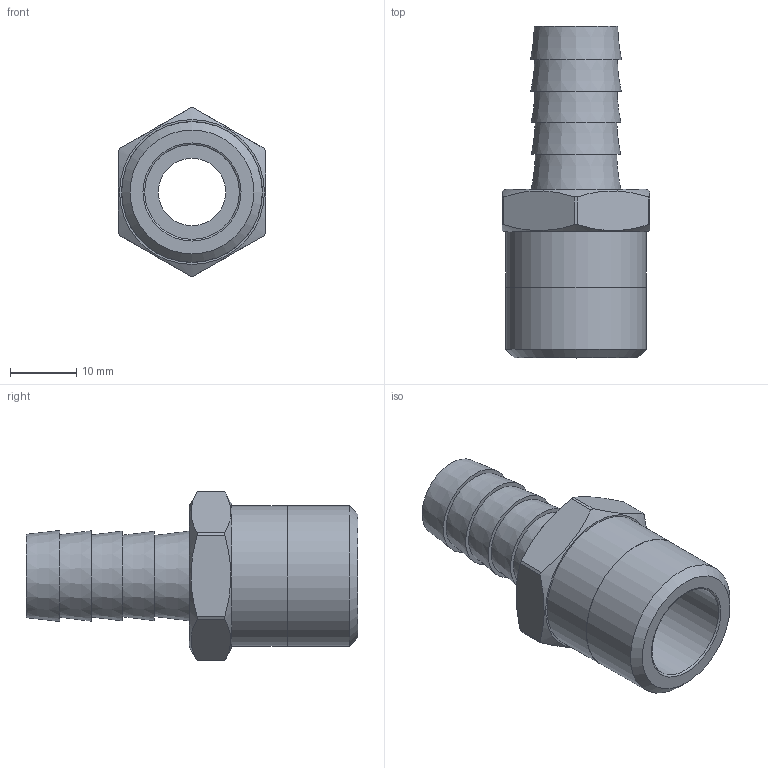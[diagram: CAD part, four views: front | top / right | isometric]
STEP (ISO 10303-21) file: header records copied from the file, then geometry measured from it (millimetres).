
FILE_DESCRIPTION(/* description */ (''),/* implementation_level */ '2;1');
FILE_NAME(/* name */ 'C:/Users/drich/Desktop/MB50-8 v1.step',/* time_stamp */ '2020-02-02T14:55:56-06:00',/* author */ (''),/* organization */ (''),/* preprocessor_version */ 'ST-DEVELOPER v18',/* originating_system */ 'Autodesk Translation Framework v8.12.0.6',/* authorisation */ '');
FILE_SCHEMA (('AUTOMOTIVE_DESIGN { 1 0 10303 214 3 1 1 }'));
Length unit declared in the file: inch
Products named in the file (2): MB50-8; 50 BARB ONLY
Assembly tree (1 placements, depth 2):
  MB50-8
    50 BARB ONLY
Bounding box: 22.23 x 50.04 x 25.4 mm (x, y, z)
Volume: 7008.9 mm3; surface area: 5403 mm2
Topology: 2 solids, 2 shells, 38 faces, 100 edges, 72 vertices
Faces by surface type: plane 16, cylinder 11, cone 10, torus 1
Full cylindrical faces by diameter (mm): 10.16 x1, 10.312 x1, 14.275 x1, 21.209 x1, 21.26 x1
Entity records: 1292 total; most frequent: CARTESIAN_POINT 237, DIRECTION 231, ORIENTED_EDGE 200, AXIS2_PLACEMENT_3D 102, EDGE_CURVE 100, VERTEX_POINT 72, CIRCLE 61, EDGE_LOOP 48
